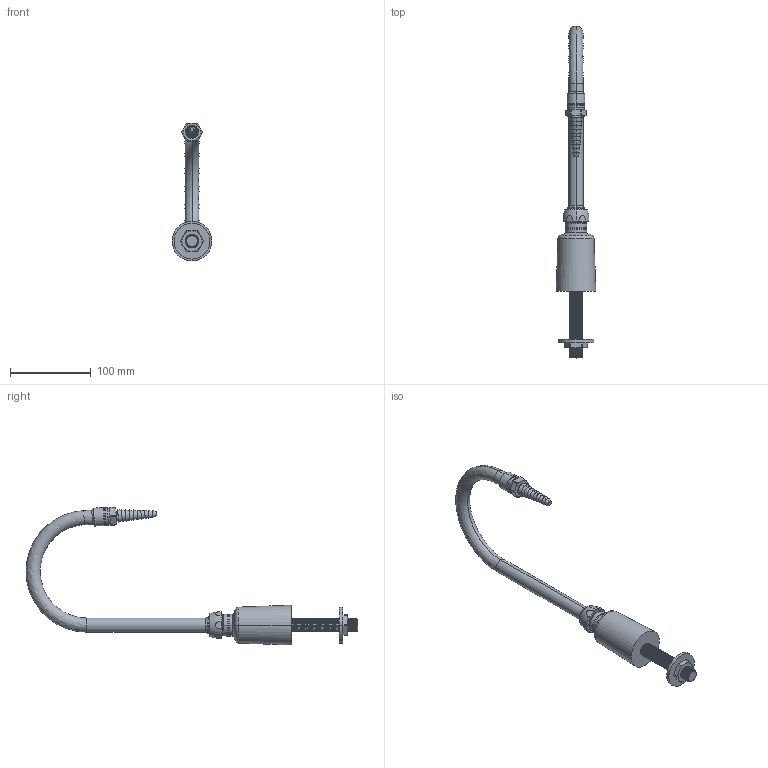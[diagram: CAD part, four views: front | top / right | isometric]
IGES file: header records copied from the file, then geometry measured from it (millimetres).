
Start section:  PTC IGES file: LRS-E11.igs
Global section: file name: LRS-E11.igs; native system: Creo Parametric by PTC Inc.; preprocessor: 2014500; author: usch_engrender; organization: Unknown; date: 20151202.105810; units: inch
Bounding box: 49.28 x 411.35 x 171.03 mm (x, y, z)
Volume: 203892.7 mm3; surface area: 69927.4 mm2
Topology: 1 solids, 2 shells, 342 faces, 855 edges, 539 vertices
Faces by surface type: revolution 242, bspline 100
